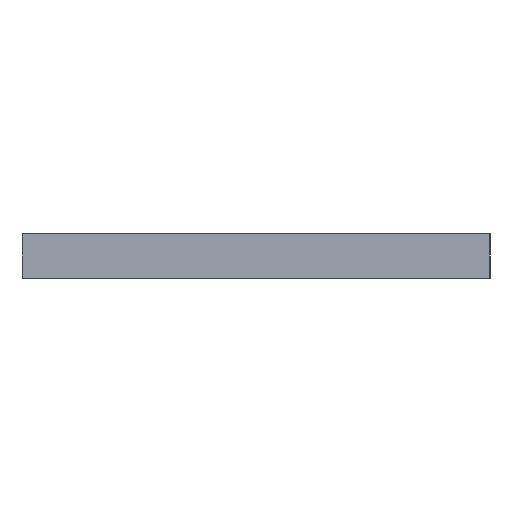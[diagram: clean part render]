
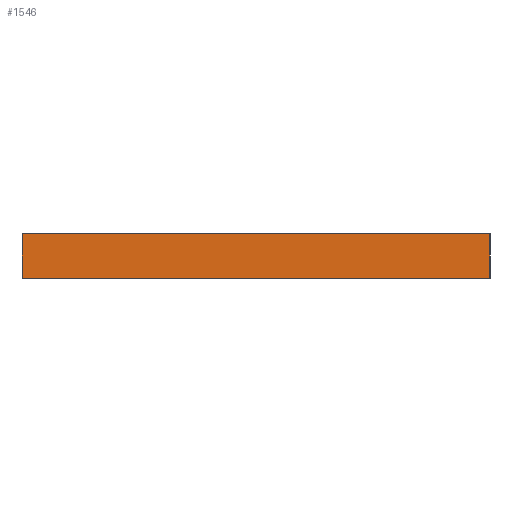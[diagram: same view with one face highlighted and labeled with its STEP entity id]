
A CAD part, left-side view. The second image highlights one B-rep face of the part: STEP entity #1546.
In plain terms, the highlighted planar face has unit normal (-1, 0, 0).
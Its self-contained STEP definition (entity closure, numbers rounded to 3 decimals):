
#55 = PLANE('',#56);
#56 = AXIS2_PLACEMENT_3D('',#57,#58,#59);
#57 = CARTESIAN_POINT('',(52.075,-41.525,0.));
#58 = DIRECTION('',(0.,1.,0.));
#59 = DIRECTION('',(1.,0.,0.));
#83 = PLANE('',#84);
#84 = AXIS2_PLACEMENT_3D('',#85,#86,#87);
#85 = CARTESIAN_POINT('',(77.075,-33.192,1.6));
#86 = DIRECTION('',(0.,0.,1.));
#87 = DIRECTION('',(1.,0.,-0.));
#111 = PLANE('',#112);
#112 = AXIS2_PLACEMENT_3D('',#113,#114,#115);
#113 = CARTESIAN_POINT('',(102.075,-24.859,0.));
#114 = DIRECTION('',(0.,-1.,0.));
#115 = DIRECTION('',(-1.,0.,0.));
#137 = PLANE('',#138);
#138 = AXIS2_PLACEMENT_3D('',#139,#140,#141);
#139 = CARTESIAN_POINT('',(77.075,-33.192,0.));
#140 = DIRECTION('',(0.,0.,1.));
#141 = DIRECTION('',(1.,0.,-0.));
#152 = EDGE_CURVE('',#153,#155,#157,.T.);
#153 = VERTEX_POINT('',#154);
#154 = CARTESIAN_POINT('',(52.075,-41.525,0.));
#155 = VERTEX_POINT('',#156);
#156 = CARTESIAN_POINT('',(52.075,-41.525,1.6));
#157 = SURFACE_CURVE('',#158,(#162,#169),.PCURVE_S1.);
#158 = LINE('',#159,#160);
#159 = CARTESIAN_POINT('',(52.075,-41.525,0.));
#160 = VECTOR('',#161,1.);
#161 = DIRECTION('',(0.,0.,1.));
#162 = PCURVE('',#55,#163);
#163 = DEFINITIONAL_REPRESENTATION('',(#164),#168);
#164 = LINE('',#165,#166);
#165 = CARTESIAN_POINT('',(0.,0.));
#166 = VECTOR('',#167,1.);
#167 = DIRECTION('',(0.,-1.));
#168 = ( GEOMETRIC_REPRESENTATION_CONTEXT(2) 
PARAMETRIC_REPRESENTATION_CONTEXT() REPRESENTATION_CONTEXT('2D SPACE',''
  ) );
#169 = PCURVE('',#170,#175);
#170 = PLANE('',#171);
#171 = AXIS2_PLACEMENT_3D('',#172,#173,#174);
#172 = CARTESIAN_POINT('',(52.075,-24.859,0.));
#173 = DIRECTION('',(1.,0.,-0.));
#174 = DIRECTION('',(0.,-1.,0.));
#175 = DEFINITIONAL_REPRESENTATION('',(#176),#180);
#176 = LINE('',#177,#178);
#177 = CARTESIAN_POINT('',(16.666,0.));
#178 = VECTOR('',#179,1.);
#179 = DIRECTION('',(0.,-1.));
#180 = ( GEOMETRIC_REPRESENTATION_CONTEXT(2) 
PARAMETRIC_REPRESENTATION_CONTEXT() REPRESENTATION_CONTEXT('2D SPACE',''
  ) );
#230 = VERTEX_POINT('',#231);
#231 = CARTESIAN_POINT('',(52.075,-24.859,1.6));
#252 = EDGE_CURVE('',#253,#230,#255,.T.);
#253 = VERTEX_POINT('',#254);
#254 = CARTESIAN_POINT('',(52.075,-24.859,0.));
#255 = SURFACE_CURVE('',#256,(#260,#267),.PCURVE_S1.);
#256 = LINE('',#257,#258);
#257 = CARTESIAN_POINT('',(52.075,-24.859,0.));
#258 = VECTOR('',#259,1.);
#259 = DIRECTION('',(0.,0.,1.));
#260 = PCURVE('',#111,#261);
#261 = DEFINITIONAL_REPRESENTATION('',(#262),#266);
#262 = LINE('',#263,#264);
#263 = CARTESIAN_POINT('',(50.,0.));
#264 = VECTOR('',#265,1.);
#265 = DIRECTION('',(0.,-1.));
#266 = ( GEOMETRIC_REPRESENTATION_CONTEXT(2) 
PARAMETRIC_REPRESENTATION_CONTEXT() REPRESENTATION_CONTEXT('2D SPACE',''
  ) );
#267 = PCURVE('',#170,#268);
#268 = DEFINITIONAL_REPRESENTATION('',(#269),#273);
#269 = LINE('',#270,#271);
#270 = CARTESIAN_POINT('',(0.,0.));
#271 = VECTOR('',#272,1.);
#272 = DIRECTION('',(0.,-1.));
#273 = ( GEOMETRIC_REPRESENTATION_CONTEXT(2) 
PARAMETRIC_REPRESENTATION_CONTEXT() REPRESENTATION_CONTEXT('2D SPACE',''
  ) );
#301 = EDGE_CURVE('',#253,#153,#302,.T.);
#302 = SURFACE_CURVE('',#303,(#307,#314),.PCURVE_S1.);
#303 = LINE('',#304,#305);
#304 = CARTESIAN_POINT('',(52.075,-24.859,0.));
#305 = VECTOR('',#306,1.);
#306 = DIRECTION('',(0.,-1.,0.));
#307 = PCURVE('',#137,#308);
#308 = DEFINITIONAL_REPRESENTATION('',(#309),#313);
#309 = LINE('',#310,#311);
#310 = CARTESIAN_POINT('',(-25.,8.333));
#311 = VECTOR('',#312,1.);
#312 = DIRECTION('',(0.,-1.));
#313 = ( GEOMETRIC_REPRESENTATION_CONTEXT(2) 
PARAMETRIC_REPRESENTATION_CONTEXT() REPRESENTATION_CONTEXT('2D SPACE',''
  ) );
#314 = PCURVE('',#170,#315);
#315 = DEFINITIONAL_REPRESENTATION('',(#316),#320);
#316 = LINE('',#317,#318);
#317 = CARTESIAN_POINT('',(0.,0.));
#318 = VECTOR('',#319,1.);
#319 = DIRECTION('',(1.,0.));
#320 = ( GEOMETRIC_REPRESENTATION_CONTEXT(2) 
PARAMETRIC_REPRESENTATION_CONTEXT() REPRESENTATION_CONTEXT('2D SPACE',''
  ) );
#979 = EDGE_CURVE('',#230,#155,#980,.T.);
#980 = SURFACE_CURVE('',#981,(#985,#992),.PCURVE_S1.);
#981 = LINE('',#982,#983);
#982 = CARTESIAN_POINT('',(52.075,-24.859,1.6));
#983 = VECTOR('',#984,1.);
#984 = DIRECTION('',(0.,-1.,0.));
#985 = PCURVE('',#83,#986);
#986 = DEFINITIONAL_REPRESENTATION('',(#987),#991);
#987 = LINE('',#988,#989);
#988 = CARTESIAN_POINT('',(-25.,8.333));
#989 = VECTOR('',#990,1.);
#990 = DIRECTION('',(0.,-1.));
#991 = ( GEOMETRIC_REPRESENTATION_CONTEXT(2) 
PARAMETRIC_REPRESENTATION_CONTEXT() REPRESENTATION_CONTEXT('2D SPACE',''
  ) );
#992 = PCURVE('',#170,#993);
#993 = DEFINITIONAL_REPRESENTATION('',(#994),#998);
#994 = LINE('',#995,#996);
#995 = CARTESIAN_POINT('',(0.,-1.6));
#996 = VECTOR('',#997,1.);
#997 = DIRECTION('',(1.,0.));
#998 = ( GEOMETRIC_REPRESENTATION_CONTEXT(2) 
PARAMETRIC_REPRESENTATION_CONTEXT() REPRESENTATION_CONTEXT('2D SPACE',''
  ) );
#1546 = ADVANCED_FACE('',(#1547),#170,.F.);
#1547 = FACE_BOUND('',#1548,.F.);
#1548 = EDGE_LOOP('',(#1549,#1550,#1551,#1552));
#1549 = ORIENTED_EDGE('',*,*,#252,.T.);
#1550 = ORIENTED_EDGE('',*,*,#979,.T.);
#1551 = ORIENTED_EDGE('',*,*,#152,.F.);
#1552 = ORIENTED_EDGE('',*,*,#301,.F.);
